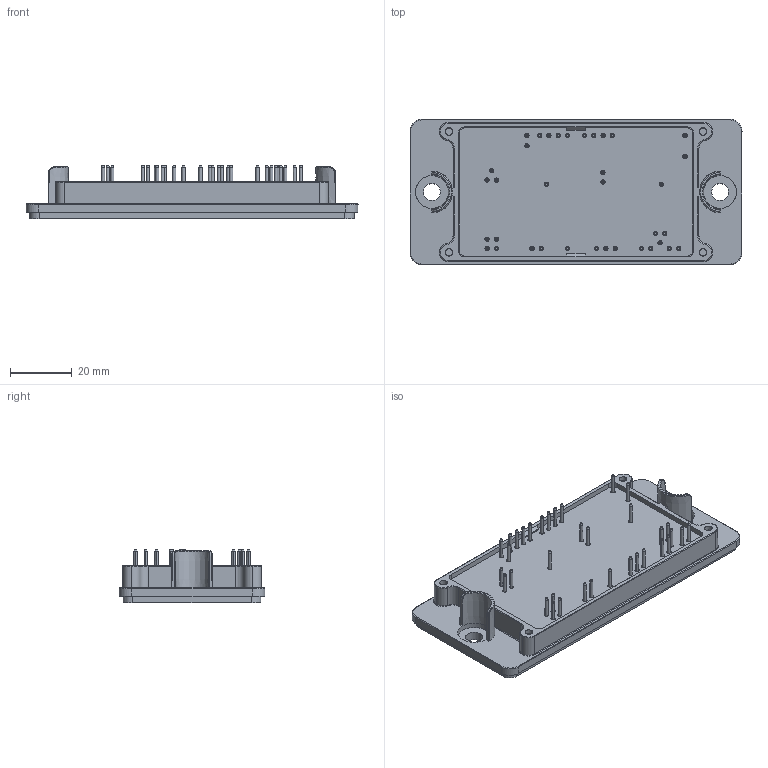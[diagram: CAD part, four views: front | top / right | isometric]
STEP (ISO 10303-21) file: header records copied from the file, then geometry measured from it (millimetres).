
FILE_DESCRIPTION((''),'2;1');
FILE_NAME('11_-AMG450L65F2S50001_ASM','2024-06-05T09:41:06',('yanbing.guo'),(''),'CREO PARAMETRIC BY PTC INC, 2022073','CREO PARAMETRIC BY PTC INC, 2022073','');
FILE_SCHEMA(('CONFIG_CONTROL_DESIGN','SHAPE_APPEARANCE_LAYERS_GROUPS'));
Length unit declared in the file: millimetre
Products named in the file (7): 00_1; ACF-2_000_1; 00_1-14065_1; 00_1-5874_1; ACF-2_000_ASM_ASM_1_ASM; 650V_450A_BOM2_0001_ASM_1_ASM; 11_-AMG450L65F2S50001_ASM
Assembly tree (6 placements, depth 4):
  11_-AMG450L65F2S50001_ASM
    650V_450A_BOM2_0001_ASM_1_ASM
      00_1
      ACF-2_000_1
      ACF-2_000_ASM_ASM_1_ASM
        00_1-14065_1
        00_1-5874_1
Bounding box: 107.2 x 47 x 17.23 mm (x, y, z)
Volume: 24842.4 mm3; surface area: 28522.6 mm2
Topology: 3 solids, 39 shells, 1969 faces, 5208 edges, 3002 vertices
Faces by surface type: plane 851, cylinder 563, bspline 296, cone 153, torus 106
Entity records: 72253 total; most frequent: CARTESIAN_POINT 27768, ORIENTED_EDGE 9624, DIRECTION 8422, EDGE_CURVE 4920, AXIS2_PLACEMENT_3D 3244, VERTEX_POINT 3002, EDGE_LOOP 2096, FACE_OUTER_BOUND 1969
